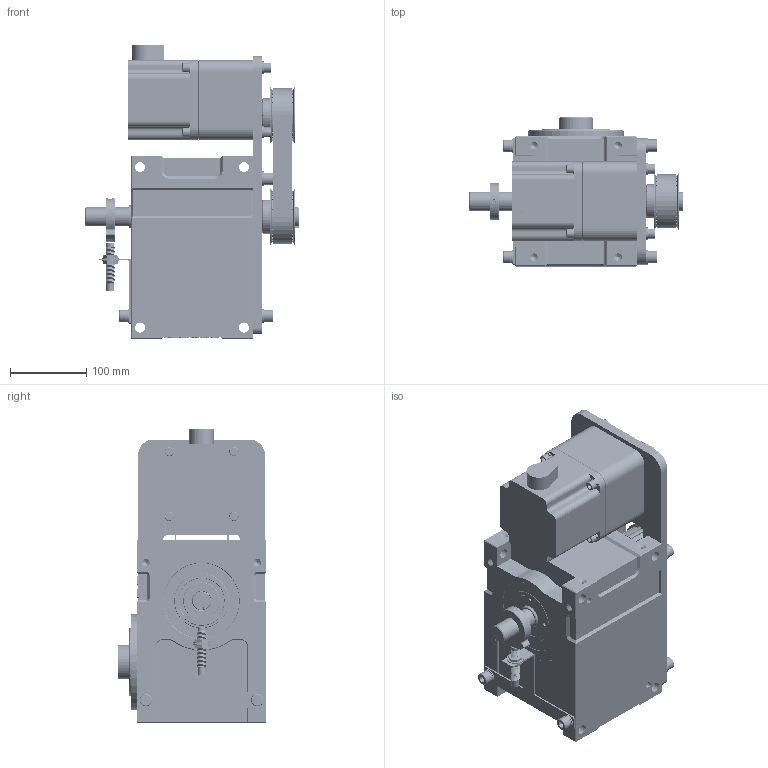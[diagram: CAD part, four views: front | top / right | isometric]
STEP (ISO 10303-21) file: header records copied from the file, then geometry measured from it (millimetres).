
FILE_DESCRIPTION (( 'STEP AP214' ), '1' );
FILE_NAME ('ER-RU80DF英锐凸轮分割器壳体法兰面销孔3D水平带轮式右侧前方ZDWS(电话15062628977)AA.STEP', '2022-07-06T05:45:13', ( '微软用户' ), ( '微软中国' ), 'SwSTEP 2.0', 'SolidWorks 2017', '' );
FILE_SCHEMA (( 'AUTOMOTIVE_DESIGN' ));
Length unit declared in the file: millimetre
Products named in the file (1): ER-RU80DF英锐凸轮分割器壳体法兰面销孔3D水平带轮式右侧前方ZDWS(电话15062628977)AA
Bounding box: 280 x 195 x 385 mm (x, y, z)
Volume: 8569501.3 mm3; surface area: 544702.2 mm2
Topology: 12 solids, 12 shells, 2594 faces, 6677 edges, 4237 vertices
Faces by surface type: cylinder 1000, plane 948, bspline 395, cone 227, torus 24
Entity records: 184908 total; most frequent: CARTESIAN_POINT 109377, ORIENTED_EDGE 13266, DIRECTION 9983, EDGE_CURVE 6633, VERTEX_POINT 4237, AXIS2_PLACEMENT_3D 3336, LINE 3311, VECTOR 3311
